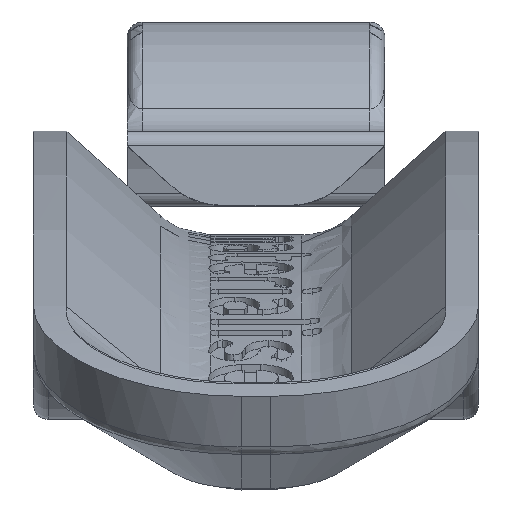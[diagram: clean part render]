
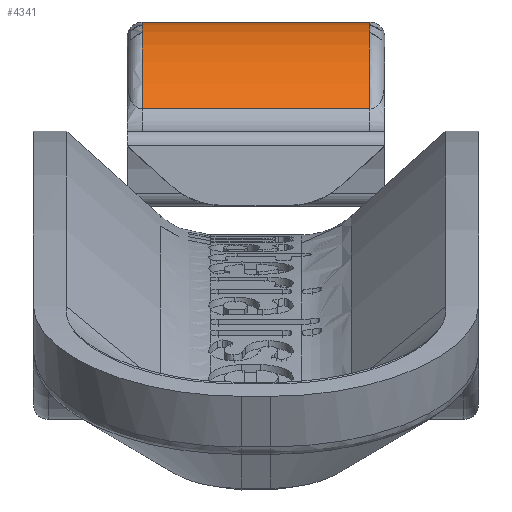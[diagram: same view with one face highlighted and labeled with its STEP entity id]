
A CAD part, top view. The second image highlights one B-rep face of the part: STEP entity #4341.
In plain terms, the highlighted cylindrical face has radius 13.4 mm (diameter 26.8 mm), a partial arc.
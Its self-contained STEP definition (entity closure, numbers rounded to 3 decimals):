
#44 = CYLINDRICAL_SURFACE ( 'NONE', #11862, 13.4 ) ;
#245 = DIRECTION ( 'NONE',  ( -1., 0., 0. ) ) ;
#349 = DIRECTION ( 'NONE',  ( -1., 0., 0. ) ) ;
#663 = DIRECTION ( 'NONE',  ( 1., 0., 0. ) ) ;
#791 = ORIENTED_EDGE ( 'NONE', *, *, #9422, .T. ) ;
#1474 = EDGE_CURVE ( 'NONE', #12043, #5304, #4908, .T. ) ;
#1642 = VECTOR ( 'NONE', #245, 1000. ) ;
#2027 = CIRCLE ( 'NONE', #8013, 13.4 ) ;
#2117 = CARTESIAN_POINT ( 'NONE',  ( -22.678, 7.533, -11.082 ) ) ;
#2577 = EDGE_CURVE ( 'NONE', #5691, #12043, #17264, .T. ) ;
#2807 = CARTESIAN_POINT ( 'NONE',  ( -7.322, 7.533, 11.082 ) ) ;
#3133 = FACE_OUTER_BOUND ( 'NONE', #7563, .T. ) ;
#4341 = ADVANCED_FACE ( 'NONE', ( #3133 ), #44, .T. ) ;
#4425 = CARTESIAN_POINT ( 'NONE',  ( -7.322, 7.533, -11.082 ) ) ;
#4908 = LINE ( 'NONE', #16282, #1642 ) ;
#5304 = VERTEX_POINT ( 'NONE', #2117 ) ;
#5691 = VERTEX_POINT ( 'NONE', #2807 ) ;
#6950 = AXIS2_PLACEMENT_3D ( 'NONE', #12726, #349, #19097 ) ;
#7563 = EDGE_LOOP ( 'NONE', ( #19973, #791, #14967, #8589 ) ) ;
#7900 = CARTESIAN_POINT ( 'NONE',  ( -22.678, 7.533, 11.082 ) ) ;
#8013 = AXIS2_PLACEMENT_3D ( 'NONE', #19419, #663, #8255 ) ;
#8255 = DIRECTION ( 'NONE',  ( 0., 0., 1. ) ) ;
#8589 = ORIENTED_EDGE ( 'NONE', *, *, #1474, .T. ) ;
#8701 = DIRECTION ( 'NONE',  ( 1., 0., 0. ) ) ;
#9422 = EDGE_CURVE ( 'NONE', #19793, #5691, #16633, .T. ) ;
#11306 = VECTOR ( 'NONE', #8701, 1000. ) ;
#11862 = AXIS2_PLACEMENT_3D ( 'NONE', #15866, #20258, #15464 ) ;
#12043 = VERTEX_POINT ( 'NONE', #4425 ) ;
#12726 = CARTESIAN_POINT ( 'NONE',  ( -7.322, 0., 0. ) ) ;
#14278 = EDGE_CURVE ( 'NONE', #5304, #19793, #2027, .T. ) ;
#14967 = ORIENTED_EDGE ( 'NONE', *, *, #2577, .T. ) ;
#15071 = CARTESIAN_POINT ( 'NONE',  ( -30., 7.533, 11.082 ) ) ;
#15464 = DIRECTION ( 'NONE',  ( 0., 0., -1. ) ) ;
#15866 = CARTESIAN_POINT ( 'NONE',  ( -30., 0., 0. ) ) ;
#16282 = CARTESIAN_POINT ( 'NONE',  ( -30., 7.533, -11.082 ) ) ;
#16633 = LINE ( 'NONE', #15071, #11306 ) ;
#17264 = CIRCLE ( 'NONE', #6950, 13.4 ) ;
#19097 = DIRECTION ( 'NONE',  ( 0., -1., 0. ) ) ;
#19419 = CARTESIAN_POINT ( 'NONE',  ( -22.678, 0., 0. ) ) ;
#19793 = VERTEX_POINT ( 'NONE', #7900 ) ;
#19973 = ORIENTED_EDGE ( 'NONE', *, *, #14278, .T. ) ;
#20258 = DIRECTION ( 'NONE',  ( 1., 0., 0. ) ) ;
